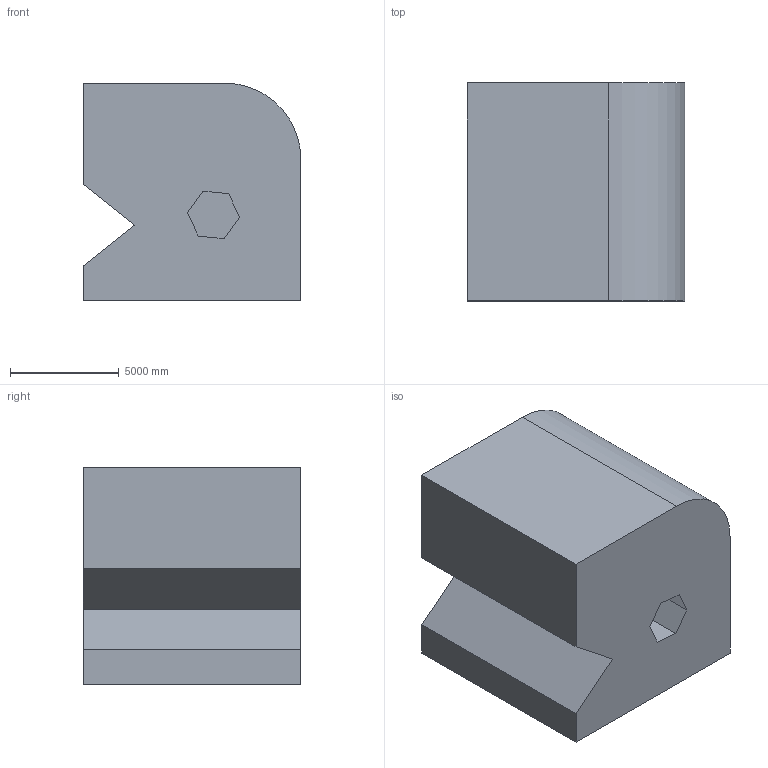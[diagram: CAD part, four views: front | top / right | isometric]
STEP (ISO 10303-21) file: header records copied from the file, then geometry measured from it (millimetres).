
FILE_DESCRIPTION (( 'STEP AP203' ), '1' );
FILE_NAME ('1320.STEP', '2022-08-18T13:45:09', ( 'user' ), ( '' ), 'SwSTEP 2.0', 'SolidWorks 2021', '' );
FILE_SCHEMA (( 'CONFIG_CONTROL_DESIGN' ));
Length unit declared in the file: centimetre
Products named in the file (1): 1320
Bounding box: 10000 x 10000 x 10000 mm (x, y, z)
Volume: 893188996763.7 mm3; surface area: 676851951.4 mm2
Topology: 1 solids, 1 shells, 21 faces, 51 edges, 34 vertices
Faces by surface type: plane 20, cylinder 1
Entity records: 684 total; most frequent: CARTESIAN_POINT 107, ORIENTED_EDGE 102, DIRECTION 97, EDGE_CURVE 51, LINE 49, VECTOR 49, VERTEX_POINT 34, AXIS2_PLACEMENT_3D 24
